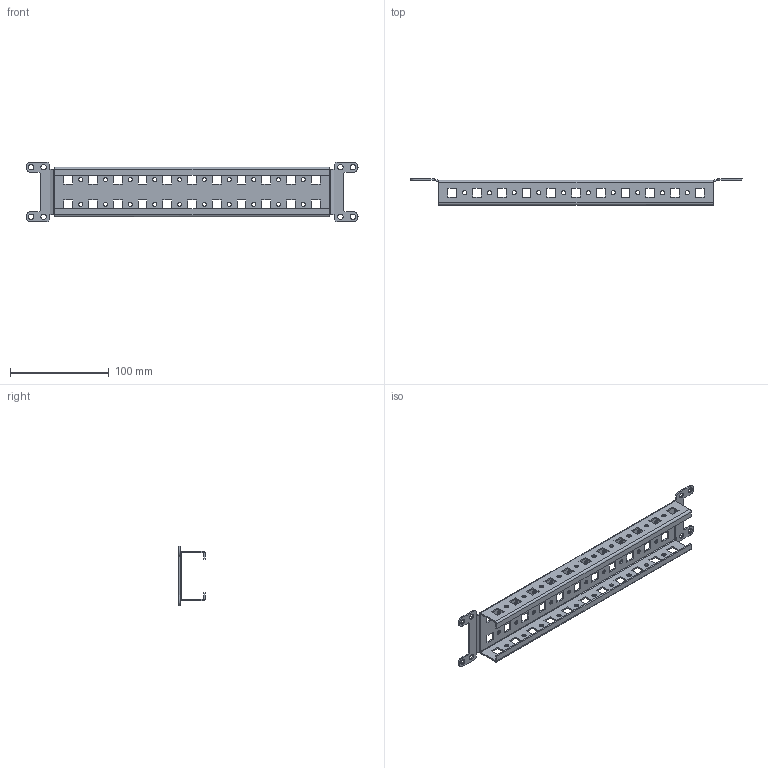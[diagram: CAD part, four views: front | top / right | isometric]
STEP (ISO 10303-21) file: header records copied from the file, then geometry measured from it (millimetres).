
FILE_DESCRIPTION(('CAx-IF Rec.Pracs.---Model Styling and Organization---1.2---2011-12-15','CAx-IF Rec.Pracs.---Geometric and Assembly Validation Properties---4.1---2014-06-16','CAx-IF Rec.Pracs.---PMI Polyline Presentation---2.0---2013-05-24'),'2;1');
FILE_NAME('R5PD400.stp','2021-05-06T03:21:08+03:00',(''),(''),'STEP Interface 4.4 by CT CoreTechnologie','3D_Evolution4.4 by CT CoreTechnologie','');
FILE_SCHEMA(('AUTOMOTIVE_DESIGN { 1 0 10303 214 1 1 1 1 }'));
Length unit declared in the file: millimetre
Products named in the file (3): R5PD400; R5PD400(2)^R5PD400; RB.0522.00.00.0_-00 400^R5PD400(2)_R5PD400
Assembly tree (2 placements, depth 3):
  R5PD400
    R5PD400(2)^R5PD400
      RB.0522.00.00.0_-00 400^R5PD400(2)_R5PD400
Bounding box: 335.5 x 26.5 x 60.5 mm (x, y, z)
Surface area: 61471.4 mm2 (no closed solid volume)
Topology: 0 solids, 4 shells, 360 faces, 1024 edges, 672 vertices
Faces by surface type: plane 246, cylinder 114
Entity records: 12128 total; most frequent: CARTESIAN_POINT 2070, ORIENTED_EDGE 2048, DIRECTION 1976, EDGE_CURVE 1024, VECTOR 796, LINE 796, VERTEX_POINT 672, AXIS2_PLACEMENT_3D 590
